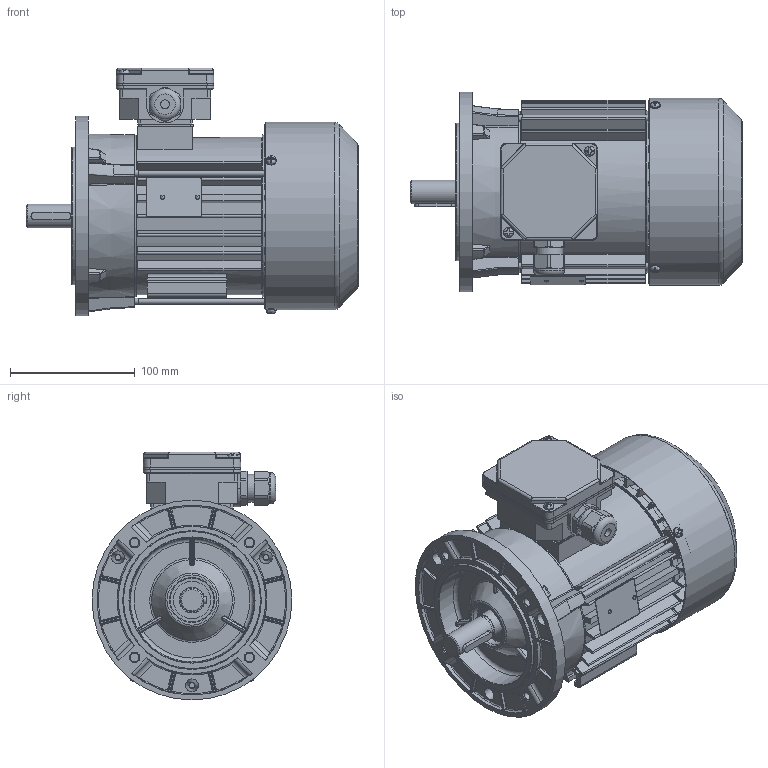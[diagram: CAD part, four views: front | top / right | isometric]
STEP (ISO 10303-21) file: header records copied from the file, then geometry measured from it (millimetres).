
FILE_DESCRIPTION( ( 'Unknown' ), '1' );
FILE_NAME( 'G:/Poczta Tk-1/STP/w.m.80/Sh80/SKh80-.A1.stp', 'Unknown', ( 'K. Szlosek' ), ( 'BESEL S.A.' ), 'PSStep 17.0.49', 'Unknown', ' ' );
FILE_SCHEMA( ( 'AUTOMOTIVE_DESIGN { 1 0 10303 214 1 1 1 1 }' ) );
Length unit declared in the file: millimetre
Products named in the file (29): skrznka zaciskowa trójfazowa ; K4-2820 Uszczelka nr 2 Sh71,80; Dławnica M20x1,5; K2-0859 Podstawa skrzynki 6-cio zaciskowej; K2-0860 Pokrywka skrzynki zaciskowej; Assem1; K1-1257 Kadłub S(E,M)h80-A i B; K2-2027 Tarcza łożyskowa P S(E,M)h80-.A,C; K4-2320 Uszczelka nr 1 Sh71,80; Wkręt samogwintujący M4x16; Nitokołek A 2x6; Wkręt samogwintujący M4x8; K3-7038 wał standard Sh80-A; Wpust A6x6x32; K3-4025 Przewietrznik Sg,h80; K4-4489 Osłona przewietrznika Sh80,90-A,C; Tabliczka znamionowa 32x44; Łożysko 6204; Śruba ściągająca E_M5x130; K1-1259 Tarcza kołnierzowa 80 B14_1 
Assembly tree (44 placements, depth 3):
  Assem1
    K1-1257 Kadłub S(E,M)h80-A i B
    K2-2027 Tarcza łożyskowa P S(E,M)h80-.A,C
    K4-2320 Uszczelka nr 1 Sh71,80
    Wkręt samogwintujący M4x16  x2
    Nitokołek A 2x6  x2
    Wkręt samogwintujący M4x8  x3
    K3-7038 wał standard Sh80-A
    Wpust A6x6x32
    K3-4025 Przewietrznik Sg,h80
    K4-4489 Osłona przewietrznika Sh80,90-A,C
    Tabliczka znamionowa 32x44
    Łożysko 6204  x2
    Łożysko 6204  x2
    Łożysko 6204  x2
    Łożysko 6204  x2
    Łożysko 6204  x2
    Łożysko 6204  x2
    Łożysko 6204  x2
    Łożysko 6204  x2
    Łożysko 6204  x2
    Łożysko 6204  x2
    Śruba ściągająca E_M5x130  x3
    K1-1259 Tarcza kołnierzowa 80 B14_1 
    skrznka zaciskowa trójfazowa 
      K4-2820 Uszczelka nr 2 Sh71,80
      Dławnica M20x1,5
      K2-0859 Podstawa skrzynki 6-cio zaciskowej
      K2-0860 Pokrywka skrzynki zaciskowej
Bounding box: 265.8 x 160 x 198.5 mm (x, y, z)
Volume: 859428.8 mm3; surface area: 519687.4 mm2
Topology: 43 solids, 59 shells, 2792 faces, 7503 edges, 4772 vertices
Faces by surface type: plane 1217, cylinder 826, bspline 399, torus 160, cone 148, sphere 42
Full cylindrical faces by diameter (mm): 2 x2, 2.4 x2, 3 x1, 3.7 x11, 4 x5, 4.2 x3, 4.5 x1, 4.6 x3, 4.8 x4, 5 x7, 5.5 x3, 6.8 x4, 7 x1, 8 x9, 18.376 x1, 18.38 x1, 18.6 x1, 19 x1, 19.3 x1, 19.5 x2, 19.9 x1, 20 x5, 20.3 x2, 20.4 x4, 22.3 x1, 25 x1, 25.5 x1, 25.65 x1, 26 x3, 26.05 x1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
Entity records: 161579 total; most frequent: CARTESIAN_POINT 77490, ORIENTED_EDGE 13456, DIRECTION 12282, EDGE_CURVE 6728, AXIS2_PLACEMENT_3D 4595, VERTEX_POINT 4442, EDGE_LOOP 3115, LINE 3092
